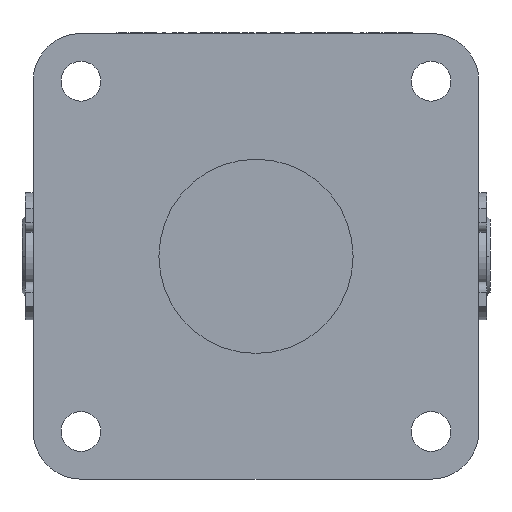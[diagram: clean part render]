
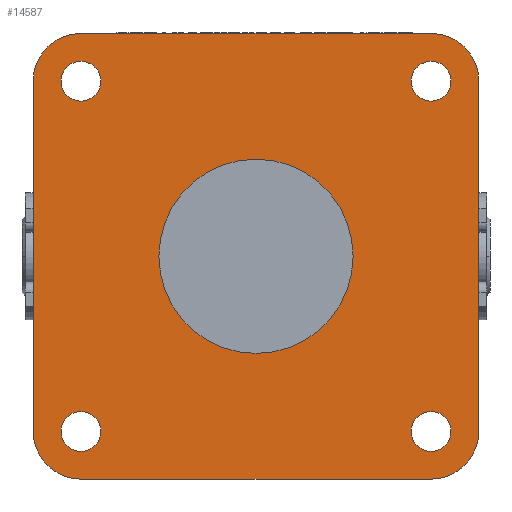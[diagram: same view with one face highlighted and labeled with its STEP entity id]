
A CAD part, left-side view. The second image highlights one B-rep face of the part: STEP entity #14587.
In plain terms, the highlighted planar face has unit normal (-1, 0, 0).
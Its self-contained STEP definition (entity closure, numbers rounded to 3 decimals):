
#14360=CARTESIAN_POINT('Vertex',(-22.,70.,-55.)) ;
#14363=CARTESIAN_POINT('Line Origine',(-22.,70.,0.)) ;
#14367=CARTESIAN_POINT('Vertex',(-22.,70.,55.)) ;
#14435=CARTESIAN_POINT('Axis2P3D Location',(-22.,0.,0.)) ;
#14440=CARTESIAN_POINT('Line Origine',(-22.,0.,70.)) ;
#14444=CARTESIAN_POINT('Vertex',(-22.,55.,70.)) ;
#14446=CARTESIAN_POINT('Vertex',(-22.,-55.,70.)) ;
#14449=CARTESIAN_POINT('Axis2P3D Location',(-22.,55.,55.)) ;
#14454=CARTESIAN_POINT('Axis2P3D Location',(-22.,55.,-55.)) ;
#14458=CARTESIAN_POINT('Vertex',(-22.,55.,-70.)) ;
#14461=CARTESIAN_POINT('Line Origine',(-22.,0.,-70.)) ;
#14465=CARTESIAN_POINT('Vertex',(-22.,-55.,-70.)) ;
#14468=CARTESIAN_POINT('Axis2P3D Location',(-22.,-55.,-55.)) ;
#14472=CARTESIAN_POINT('Vertex',(-22.,-70.,-55.)) ;
#14475=CARTESIAN_POINT('Line Origine',(-22.,-70.,0.)) ;
#14479=CARTESIAN_POINT('Vertex',(-22.,-70.,55.)) ;
#14482=CARTESIAN_POINT('Axis2P3D Location',(-22.,-55.,55.)) ;
#14497=CARTESIAN_POINT('Axis2P3D Location',(-22.,0.,0.)) ;
#14501=CARTESIAN_POINT('Vertex',(-22.,30.5,0.)) ;
#14503=CARTESIAN_POINT('Vertex',(-22.,-30.5,0.)) ;
#14506=CARTESIAN_POINT('Axis2P3D Location',(-22.,0.,0.)) ;
#14515=CARTESIAN_POINT('Axis2P3D Location',(-22.,-55.,55.)) ;
#14519=CARTESIAN_POINT('Vertex',(-22.,-48.75,55.)) ;
#14521=CARTESIAN_POINT('Vertex',(-22.,-61.25,55.)) ;
#14524=CARTESIAN_POINT('Axis2P3D Location',(-22.,-55.,55.)) ;
#14533=CARTESIAN_POINT('Axis2P3D Location',(-22.,-55.,-55.)) ;
#14537=CARTESIAN_POINT('Vertex',(-22.,-48.75,-55.)) ;
#14539=CARTESIAN_POINT('Vertex',(-22.,-61.25,-55.)) ;
#14542=CARTESIAN_POINT('Axis2P3D Location',(-22.,-55.,-55.)) ;
#14551=CARTESIAN_POINT('Axis2P3D Location',(-22.,55.,-55.)) ;
#14555=CARTESIAN_POINT('Vertex',(-22.,48.75,-55.)) ;
#14557=CARTESIAN_POINT('Vertex',(-22.,61.25,-55.)) ;
#14560=CARTESIAN_POINT('Axis2P3D Location',(-22.,55.,-55.)) ;
#14569=CARTESIAN_POINT('Axis2P3D Location',(-22.,55.,55.)) ;
#14573=CARTESIAN_POINT('Vertex',(-22.,48.75,55.)) ;
#14575=CARTESIAN_POINT('Vertex',(-22.,61.25,55.)) ;
#14578=CARTESIAN_POINT('Axis2P3D Location',(-22.,55.,55.)) ;
#14364=DIRECTION('Vector Direction',(0.,0.,1.)) ;
#14436=DIRECTION('Axis2P3D Direction',(1.,0.,0.)) ;
#14437=DIRECTION('Axis2P3D XDirection',(0.,1.,0.)) ;
#14441=DIRECTION('Vector Direction',(0.,1.,0.)) ;
#14450=DIRECTION('Axis2P3D Direction',(1.,0.,0.)) ;
#14455=DIRECTION('Axis2P3D Direction',(1.,0.,0.)) ;
#14462=DIRECTION('Vector Direction',(0.,-1.,0.)) ;
#14469=DIRECTION('Axis2P3D Direction',(1.,0.,0.)) ;
#14476=DIRECTION('Vector Direction',(0.,0.,-1.)) ;
#14483=DIRECTION('Axis2P3D Direction',(1.,0.,0.)) ;
#14498=DIRECTION('Axis2P3D Direction',(1.,0.,0.)) ;
#14507=DIRECTION('Axis2P3D Direction',(1.,0.,0.)) ;
#14516=DIRECTION('Axis2P3D Direction',(1.,0.,0.)) ;
#14525=DIRECTION('Axis2P3D Direction',(1.,0.,0.)) ;
#14534=DIRECTION('Axis2P3D Direction',(1.,0.,0.)) ;
#14543=DIRECTION('Axis2P3D Direction',(1.,0.,0.)) ;
#14552=DIRECTION('Axis2P3D Direction',(1.,0.,0.)) ;
#14561=DIRECTION('Axis2P3D Direction',(1.,0.,0.)) ;
#14570=DIRECTION('Axis2P3D Direction',(1.,0.,0.)) ;
#14579=DIRECTION('Axis2P3D Direction',(1.,0.,0.)) ;
#14438=AXIS2_PLACEMENT_3D('Plane Axis2P3D',#14435,#14436,#14437) ;
#14451=AXIS2_PLACEMENT_3D('Circle Axis2P3D',#14449,#14450,$) ;
#14456=AXIS2_PLACEMENT_3D('Circle Axis2P3D',#14454,#14455,$) ;
#14470=AXIS2_PLACEMENT_3D('Circle Axis2P3D',#14468,#14469,$) ;
#14484=AXIS2_PLACEMENT_3D('Circle Axis2P3D',#14482,#14483,$) ;
#14499=AXIS2_PLACEMENT_3D('Circle Axis2P3D',#14497,#14498,$) ;
#14508=AXIS2_PLACEMENT_3D('Circle Axis2P3D',#14506,#14507,$) ;
#14517=AXIS2_PLACEMENT_3D('Circle Axis2P3D',#14515,#14516,$) ;
#14526=AXIS2_PLACEMENT_3D('Circle Axis2P3D',#14524,#14525,$) ;
#14535=AXIS2_PLACEMENT_3D('Circle Axis2P3D',#14533,#14534,$) ;
#14544=AXIS2_PLACEMENT_3D('Circle Axis2P3D',#14542,#14543,$) ;
#14553=AXIS2_PLACEMENT_3D('Circle Axis2P3D',#14551,#14552,$) ;
#14562=AXIS2_PLACEMENT_3D('Circle Axis2P3D',#14560,#14561,$) ;
#14571=AXIS2_PLACEMENT_3D('Circle Axis2P3D',#14569,#14570,$) ;
#14580=AXIS2_PLACEMENT_3D('Circle Axis2P3D',#14578,#14579,$) ;
#14488=ORIENTED_EDGE('',*,*,#14448,.F.) ;
#14489=ORIENTED_EDGE('',*,*,#14453,.F.) ;
#14490=ORIENTED_EDGE('',*,*,#14369,.F.) ;
#14491=ORIENTED_EDGE('',*,*,#14460,.F.) ;
#14492=ORIENTED_EDGE('',*,*,#14467,.F.) ;
#14493=ORIENTED_EDGE('',*,*,#14474,.F.) ;
#14494=ORIENTED_EDGE('',*,*,#14481,.F.) ;
#14495=ORIENTED_EDGE('',*,*,#14486,.F.) ;
#14512=ORIENTED_EDGE('',*,*,#14505,.F.) ;
#14513=ORIENTED_EDGE('',*,*,#14510,.F.) ;
#14530=ORIENTED_EDGE('',*,*,#14523,.T.) ;
#14531=ORIENTED_EDGE('',*,*,#14528,.T.) ;
#14548=ORIENTED_EDGE('',*,*,#14541,.T.) ;
#14549=ORIENTED_EDGE('',*,*,#14546,.T.) ;
#14566=ORIENTED_EDGE('',*,*,#14559,.T.) ;
#14567=ORIENTED_EDGE('',*,*,#14564,.T.) ;
#14584=ORIENTED_EDGE('',*,*,#14577,.T.) ;
#14585=ORIENTED_EDGE('',*,*,#14582,.T.) ;
#14514=FACE_BOUND('',#14511,.T.) ;
#14532=FACE_BOUND('',#14529,.T.) ;
#14550=FACE_BOUND('',#14547,.T.) ;
#14568=FACE_BOUND('',#14565,.T.) ;
#14586=FACE_BOUND('',#14583,.T.) ;
#14365=VECTOR('Line Direction',#14364,1.) ;
#14442=VECTOR('Line Direction',#14441,1.) ;
#14463=VECTOR('Line Direction',#14462,1.) ;
#14477=VECTOR('Line Direction',#14476,1.) ;
#14587=ADVANCED_FACE('PartBody',(#14496,#14514,#14532,#14550,#14568,#14586),#14439,.F.) ;
#14452=CIRCLE('generated circle',#14451,15.) ;
#14457=CIRCLE('generated circle',#14456,15.) ;
#14471=CIRCLE('generated circle',#14470,15.) ;
#14485=CIRCLE('generated circle',#14484,15.) ;
#14500=CIRCLE('generated circle',#14499,30.5) ;
#14509=CIRCLE('generated circle',#14508,30.5) ;
#14518=CIRCLE('generated circle',#14517,6.25) ;
#14527=CIRCLE('generated circle',#14526,6.25) ;
#14536=CIRCLE('generated circle',#14535,6.25) ;
#14545=CIRCLE('generated circle',#14544,6.25) ;
#14554=CIRCLE('generated circle',#14553,6.25) ;
#14563=CIRCLE('generated circle',#14562,6.25) ;
#14572=CIRCLE('generated circle',#14571,6.25) ;
#14581=CIRCLE('generated circle',#14580,6.25) ;
#14369=EDGE_CURVE('',#14361,#14368,#14366,.T.) ;
#14448=EDGE_CURVE('',#14445,#14447,#14443,.F.) ;
#14453=EDGE_CURVE('',#14368,#14445,#14452,.T.) ;
#14460=EDGE_CURVE('',#14459,#14361,#14457,.T.) ;
#14467=EDGE_CURVE('',#14466,#14459,#14464,.F.) ;
#14474=EDGE_CURVE('',#14473,#14466,#14471,.T.) ;
#14481=EDGE_CURVE('',#14480,#14473,#14478,.T.) ;
#14486=EDGE_CURVE('',#14447,#14480,#14485,.T.) ;
#14505=EDGE_CURVE('',#14502,#14504,#14500,.F.) ;
#14510=EDGE_CURVE('',#14504,#14502,#14509,.F.) ;
#14523=EDGE_CURVE('',#14520,#14522,#14518,.T.) ;
#14528=EDGE_CURVE('',#14522,#14520,#14527,.T.) ;
#14541=EDGE_CURVE('',#14538,#14540,#14536,.T.) ;
#14546=EDGE_CURVE('',#14540,#14538,#14545,.T.) ;
#14559=EDGE_CURVE('',#14556,#14558,#14554,.T.) ;
#14564=EDGE_CURVE('',#14558,#14556,#14563,.T.) ;
#14577=EDGE_CURVE('',#14574,#14576,#14572,.T.) ;
#14582=EDGE_CURVE('',#14576,#14574,#14581,.T.) ;
#14487=EDGE_LOOP('',(#14488,#14489,#14490,#14491,#14492,#14493,#14494,#14495)) ;
#14511=EDGE_LOOP('',(#14512,#14513)) ;
#14529=EDGE_LOOP('',(#14530,#14531)) ;
#14547=EDGE_LOOP('',(#14548,#14549)) ;
#14565=EDGE_LOOP('',(#14566,#14567)) ;
#14583=EDGE_LOOP('',(#14584,#14585)) ;
#14496=FACE_OUTER_BOUND('',#14487,.T.) ;
#14366=LINE('Line',#14363,#14365) ;
#14443=LINE('Line',#14440,#14442) ;
#14464=LINE('Line',#14461,#14463) ;
#14478=LINE('Line',#14475,#14477) ;
#14439=PLANE('',#14438) ;
#14361=VERTEX_POINT('',#14360) ;
#14368=VERTEX_POINT('',#14367) ;
#14445=VERTEX_POINT('',#14444) ;
#14447=VERTEX_POINT('',#14446) ;
#14459=VERTEX_POINT('',#14458) ;
#14466=VERTEX_POINT('',#14465) ;
#14473=VERTEX_POINT('',#14472) ;
#14480=VERTEX_POINT('',#14479) ;
#14502=VERTEX_POINT('',#14501) ;
#14504=VERTEX_POINT('',#14503) ;
#14520=VERTEX_POINT('',#14519) ;
#14522=VERTEX_POINT('',#14521) ;
#14538=VERTEX_POINT('',#14537) ;
#14540=VERTEX_POINT('',#14539) ;
#14556=VERTEX_POINT('',#14555) ;
#14558=VERTEX_POINT('',#14557) ;
#14574=VERTEX_POINT('',#14573) ;
#14576=VERTEX_POINT('',#14575) ;
